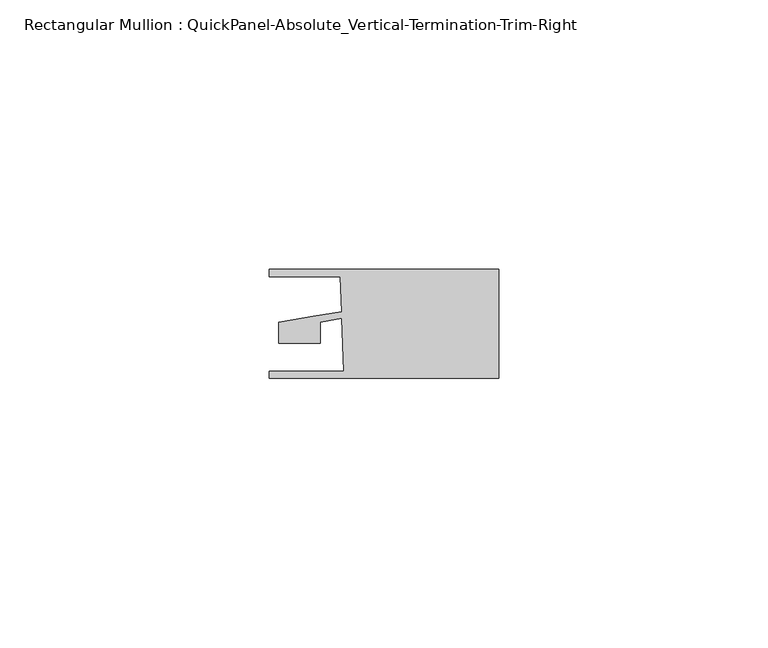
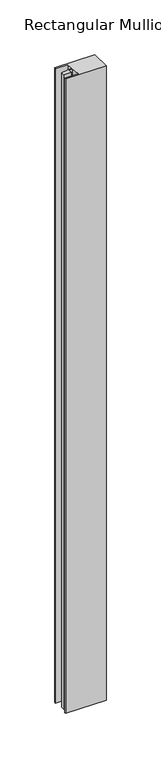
"""IFC4 building model written with IfcOpenShell, lengths in millimetres: member geometry, Rectangular Mullion : QuickPanel-Absolute_Vertical-Termination-Trim-Right."""

from ifc_helpers import new_model, si_unit, frame, origin, place, context, project, spatial, polyline, outline, extrude, source, transform, mapped, element, save


def rectangular_mullion_quickpanel_absolute_vertical_termination_5774e4c7(model_context):
    return source(origin(), model_context, "Body", "SweptSolid", [
        extrude(outline(polyline([(-42.7011763, 8.095605), (0.0, 8.095605), (0.0, -12.1803727), (-42.7011763, -12.1803727), (-42.7011763, -10.9303752), (-28.8448229, -10.9303752), (-29.1887499, -1.0815922), (-33.1743189, -1.7648465), (-33.1743189, -5.6493034), (-40.919092, -5.6493034), (-40.919092, -1.8040245), (-34.4837593, -0.7008023), (-29.2334784, 0.1992641), (-29.4602636, 6.6935423), (-42.7011763, 6.6935423), (-42.7011763, 8.095605)])), frame((0.0, 0.0, -709.3212426), z_axis=(0.0, 0.0, 1.0), x_axis=(1.0, 0.0, 0.0)), (0.0, 0.0, 1.0), 709.3212426),
    ])


if __name__ == "__main__":
    model = new_model("IFC4")
    model_context = context("Model", 3, world=origin())
    ifc_project = project(units=[si_unit("LENGTHUNIT", "METRE", prefix="MILLI")], contexts=[model_context])
    site = spatial("IfcSite", under=ifc_project)
    building = spatial("IfcBuilding", under=site)
    placement = place(None, origin())
    rectangular_mullion_quickpanel_absolute_vertical_termination_shape = rectangular_mullion_quickpanel_absolute_vertical_termination_5774e4c7(model_context)
    element("IfcMember", 1, ObjectType="Rectangular Mullion : QuickPanel-Absolute_Vertical-Termination-Trim-Right", at=placement, inside=building, context=model_context, shape_type="MappedRepresentation", body=[
        mapped(rectangular_mullion_quickpanel_absolute_vertical_termination_shape, transform((0.0, 0.0, 0.0), x_axis=(1.0, 0.0, 0.0), y_axis=(0.0, 1.0, 0.0), z_axis=(0.0, 0.0, 1.0))),
    ])
    save(model, "model.ifc")
